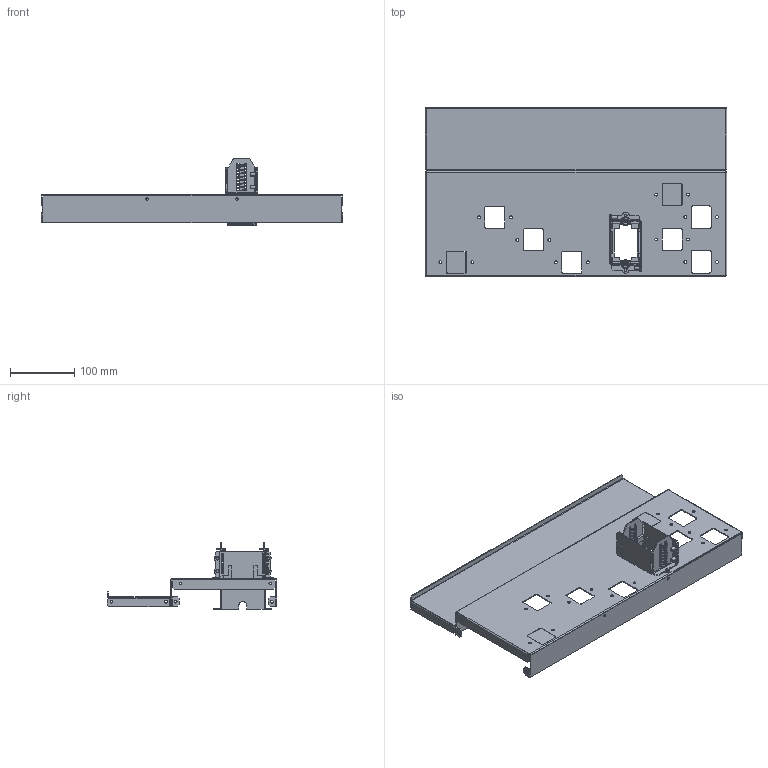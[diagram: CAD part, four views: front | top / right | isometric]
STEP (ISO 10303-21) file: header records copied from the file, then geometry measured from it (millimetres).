
FILE_DESCRIPTION(('CAx-IF Rec.Pracs.---Model Styling and Organization---1.2---2011-12-15','CAx-IF Rec.Pracs.---Geometric and Assembly Validation Properties---4.1---2014-06-16','CAx-IF Rec.Pracs.---PMI Polyline Presentation---2.0---2013-05-24'),'2;1');
FILE_NAME('R5M2W6M1BR22.stp','2021-05-05T12:33:17+03:00',(''),(''),'STEP Interface 4.4 by CT CoreTechnologie','3D_Evolution4.4 by CT CoreTechnologie','');
FILE_SCHEMA(('AUTOMOTIVE_DESIGN { 1 0 10303 214 1 1 1 1 }'));
Length unit declared in the file: millimetre
Products named in the file (9): R5M2W6M1BR22; RB.1507.00.00.0_-01; RB.1567.00.00.0_-00; RB.1765.00.00.0 ÑÁ; M5x8-DIN7500C_stright; RB.1570.00.00.0; RB.1569.00.00.1_-00; RB.1571.00.00.0_In prestressed condition - 40 mm; RB.1506.00.00.0_-03
Assembly tree (14 placements, depth 3):
  R5M2W6M1BR22
    RB.1507.00.00.0_-01
    RB.1567.00.00.0_-00
    RB.1765.00.00.0 ÑÁ
      M5x8-DIN7500C_stright  x4
      RB.1570.00.00.0  x2
      RB.1569.00.00.1_-00  x2
      RB.1571.00.00.0_In prestressed condition - 40 mm  x2
    RB.1506.00.00.0_-03
Bounding box: 470 x 264.2 x 103.8 mm (x, y, z)
Surface area: 409872.1 mm2 (no closed solid volume)
Topology: 0 solids, 21 shells, 762 faces, 2015 edges, 1295 vertices
Faces by surface type: plane 492, cylinder 238, bspline 32
Entity records: 19995 total; most frequent: CARTESIAN_POINT 4757, DIRECTION 3051, ORIENTED_EDGE 3050, EDGE_CURVE 1525, VECTOR 1109, LINE 1109, VERTEX_POINT 977, AXIS2_PLACEMENT_3D 971
